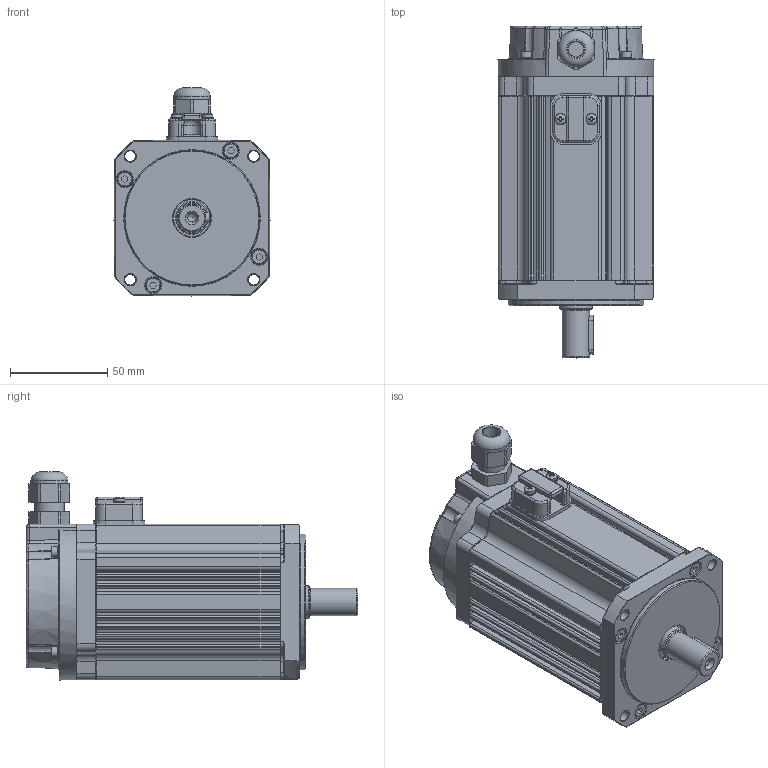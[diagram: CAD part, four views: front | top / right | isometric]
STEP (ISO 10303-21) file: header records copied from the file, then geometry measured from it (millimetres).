
FILE_DESCRIPTION(('STEP AP203'),'1');
FILE_NAME('B201E-D2R.stp','2021-04-14T07:07:13',(' '),(' '),'Spatial InterOp 3D',' ',' ');
FILE_SCHEMA(('CONFIG_CONTROL_DESIGN'));
Length unit declared in the file: millimetre
Products named in the file (1): B201E-D2R
Bounding box: 80.41 x 171 x 107.23 mm (x, y, z)
Volume: 761454.1 mm3; surface area: 82300 mm2
Topology: 1 solids, 13 shells, 1643 faces, 3930 edges, 2323 vertices
Faces by surface type: plane 781, cone 419, cylinder 299, torus 95, bspline 35, revolution 7, sphere 7
Full cylindrical faces by diameter (mm): 2.5 x8, 3 x10, 3.3 x5, 3.5 x8, 4 x4, 4.2 x1, 5.5 x8, 5.6 x2, 6 x4, 7 x4, 8 x1, 8.5 x1, 9 x1, 14 x1, 15.2 x1, 16.8 x1, 19 x1, 70 x1
Entity records: 49563 total; most frequent: CARTESIAN_POINT 12438, DIRECTION 8075, ORIENTED_EDGE 7356, EDGE_CURVE 3678, AXIS2_PLACEMENT_3D 3041, VERTEX_POINT 2237, LINE 1986, VECTOR 1986
